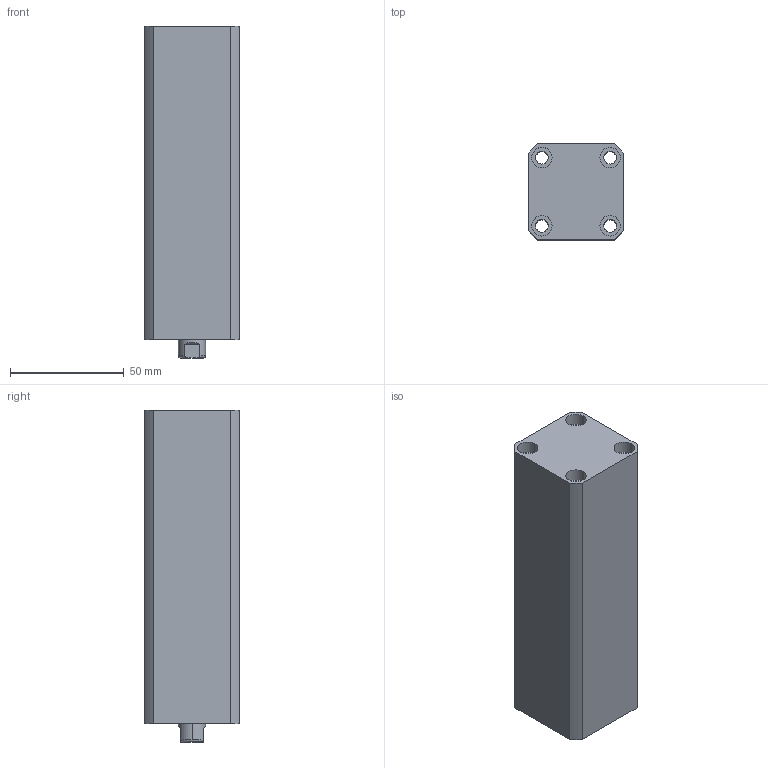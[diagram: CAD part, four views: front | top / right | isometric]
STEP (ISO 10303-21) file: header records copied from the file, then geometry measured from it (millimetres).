
FILE_DESCRIPTION (( 'STEP AP214' ), '1' );
FILE_NAME ('chtb-sd20x95n_asm.STEP', '2018-04-26T12:46:11', ( 'Windows' ), ( 'Microsoft' ), 'SwSTEP 2.0', 'SolidWorks 2015', '' );
FILE_SCHEMA (( 'AUTOMOTIVE_DESIGN' ));
Length unit declared in the file: millimetre
Products named in the file (4): QG; CHTB-SD20X95NHSG; CHTB-SD20X95NBT; chtb-sd20x95n_asm
Assembly tree (3 placements, depth 2):
  chtb-sd20x95n_asm
    CHTB-SD20X95NBT
    CHTB-SD20X95NHSG
    QG
Bounding box: 42 x 42 x 146 mm (x, y, z)
Volume: 202138.1 mm3; surface area: 55962.7 mm2
Topology: 3 solids, 3 shells, 192 faces, 499 edges, 330 vertices
Faces by surface type: cylinder 102, plane 36, torus 25, bspline 19, cone 10
Entity records: 10524 total; most frequent: CARTESIAN_POINT 5851, ORIENTED_EDGE 986, DIRECTION 903, EDGE_CURVE 493, AXIS2_PLACEMENT_3D 385, VERTEX_POINT 330, EDGE_LOOP 229, CIRCLE 206
